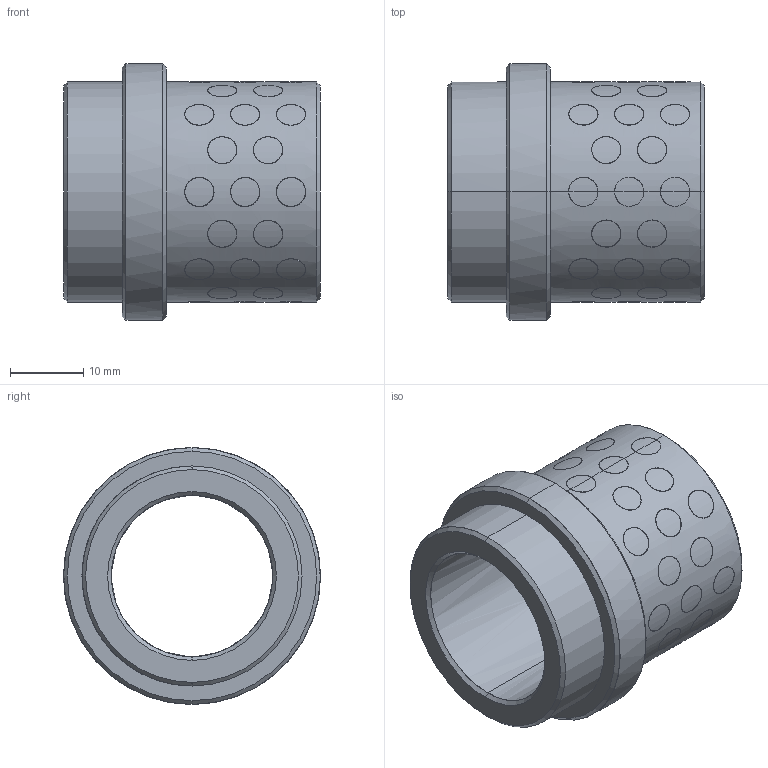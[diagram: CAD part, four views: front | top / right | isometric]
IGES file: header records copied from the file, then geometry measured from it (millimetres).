
Start section: START RECORD GO HERE.
Global section: file name: G31222027.igs; native system: DASSAULT SYSTEMES CATIA V5 R20 - www.3ds.com; preprocessor: CATIA Version 5 Release 20 ; author: r.borello; organization: CFTORINO; date: 20190624.121527; units: millimetre
Bounding box: 35 x 35 x 35 mm (x, y, z)
Surface area: 10810.4 mm2 (no closed solid volume)
Topology: 0 solids, 0 shells, 276 faces, 1200 edges, 1200 vertices
Faces by surface type: revolution 272, plane 4
